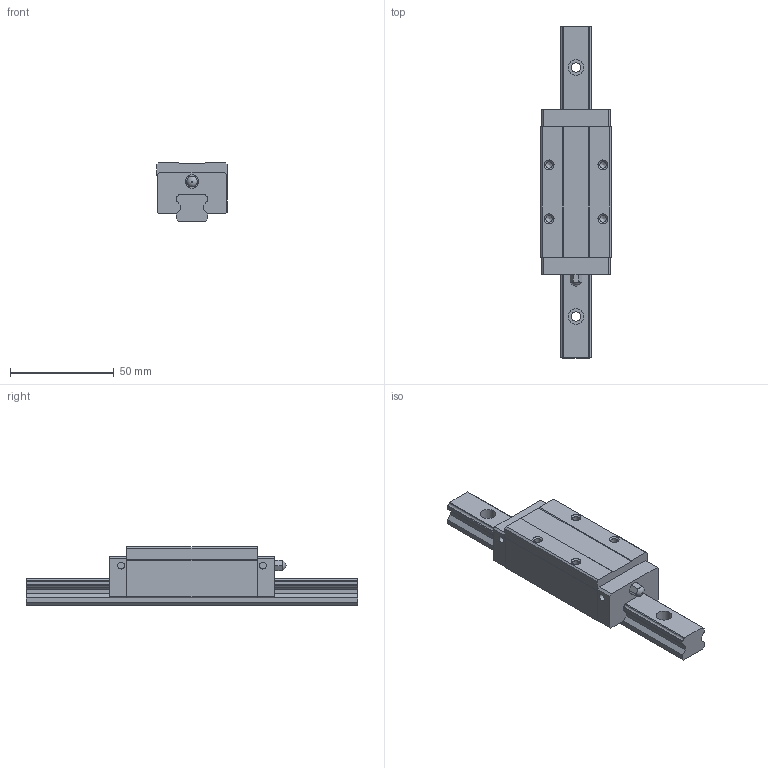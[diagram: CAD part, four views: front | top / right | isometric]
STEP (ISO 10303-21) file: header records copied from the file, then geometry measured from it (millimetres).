
FILE_DESCRIPTION(/* description */ (''),/* implementation_level */ '2;1');
FILE_NAME(/* name */ 'SME15-LSA',/* time_stamp */ '2009-06-12T14:05:37+08:00',/* author */ (''),/* organization */ (''),/* preprocessor_version */ 'ST-DEVELOPER v11',/* originating_system */ 'UGS - NX 5.0',/* authorisation */ '');
FILE_SCHEMA (('CONFIG_CONTROL_DESIGN'));
Length unit declared in the file: millimetre
Products named in the file (1): jill3C1A4228
Bounding box: 34 x 160 x 28 mm (x, y, z)
Volume: 79067.9 mm3; surface area: 22997.8 mm2
Topology: 2 solids, 3 shells, 132 faces, 354 edges, 236 vertices
Faces by surface type: plane 76, cylinder 44, cone 8, sphere 2, bspline 2
Full cylindrical faces by diameter (mm): 3.3 x8, 4 x7, 4.5 x3, 6.5 x2, 7.5 x3
Entity records: 5504 total; most frequent: CARTESIAN_POINT 2419, DIRECTION 618, ORIENTED_EDGE 580, EDGE_CURVE 290, AXIS2_PLACEMENT_3D 211, VERTEX_POINT 210, LINE 196, VECTOR 196
